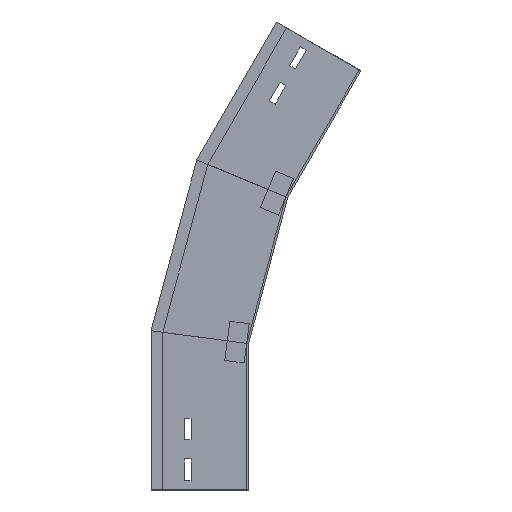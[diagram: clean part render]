
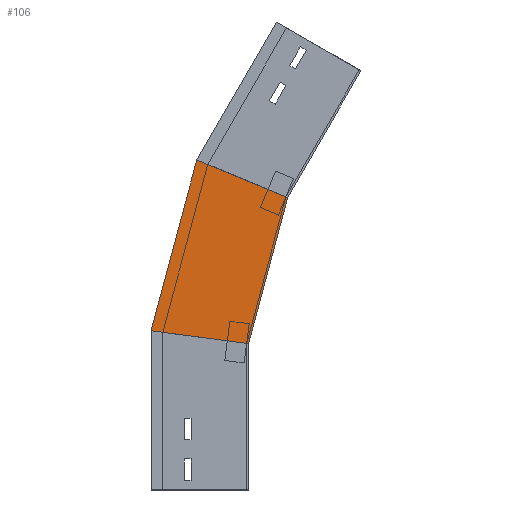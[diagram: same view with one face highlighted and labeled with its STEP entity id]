
A CAD part, left-side view. The second image highlights one B-rep face of the part: STEP entity #106.
In plain terms, the highlighted planar face has unit normal (-1, 0, 0) as drawn and (1, 0, 0) by its records, which use the part's own axes.
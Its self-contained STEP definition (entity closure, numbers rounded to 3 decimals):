
#42 = AXIS2_PLACEMENT_3D ( 'NONE', #234, #929, #126 ) ;
#106 = ADVANCED_FACE ( 'NONE', ( #550 ), #1167, .T. ) ;
#126 = DIRECTION ( 'NONE',  ( 0., 0., -1. ) ) ;
#149 = DIRECTION ( 'NONE',  ( 0., -0.259, 0.966 ) ) ;
#234 = CARTESIAN_POINT ( 'NONE',  ( 0., 3.774, 135.915 ) ) ;
#270 = CARTESIAN_POINT ( 'NONE',  ( 0., 100.367, 161.797 ) ) ;
#298 = CARTESIAN_POINT ( 'NONE',  ( 0., -40.117, 299.719 ) ) ;
#351 = VERTEX_POINT ( 'NONE', #799 ) ;
#383 = ORIENTED_EDGE ( 'NONE', *, *, #776, .T. ) ;
#403 = ORIENTED_EDGE ( 'NONE', *, *, #1404, .F. ) ;
#420 = LINE ( 'NONE', #1317, #641 ) ;
#442 = DIRECTION ( 'NONE',  ( 0., -0.924, -0.383 ) ) ;
#454 = VECTOR ( 'NONE', #1100, 1000. ) ;
#550 = FACE_OUTER_BOUND ( 'NONE', #582, .T. ) ;
#582 = EDGE_LOOP ( 'NONE', ( #1173, #383, #403, #654 ) ) ;
#627 = LINE ( 'NONE', #1449, #454 ) ;
#639 = VECTOR ( 'NONE', #442, 1000. ) ;
#641 = VECTOR ( 'NONE', #1216, 1000. ) ;
#654 = ORIENTED_EDGE ( 'NONE', *, *, #994, .F. ) ;
#708 = CARTESIAN_POINT ( 'NONE',  ( 0., 100., 163.165 ) ) ;
#776 = EDGE_CURVE ( 'NONE', #1309, #1407, #1020, .T. ) ;
#799 = CARTESIAN_POINT ( 'NONE',  ( 0., 0., 150. ) ) ;
#929 = DIRECTION ( 'NONE',  ( 1., 0., 0. ) ) ;
#937 = EDGE_CURVE ( 'NONE', #1102, #1309, #1297, .T. ) ;
#994 = EDGE_CURVE ( 'NONE', #1102, #351, #627, .T. ) ;
#1020 = LINE ( 'NONE', #1481, #639 ) ;
#1100 = DIRECTION ( 'NONE',  ( 0., -0.991, -0.131 ) ) ;
#1102 = VERTEX_POINT ( 'NONE', #708 ) ;
#1157 = CARTESIAN_POINT ( 'NONE',  ( 0., 53.068, 338.317 ) ) ;
#1167 = PLANE ( 'NONE',  #42 ) ;
#1173 = ORIENTED_EDGE ( 'NONE', *, *, #937, .T. ) ;
#1204 = VECTOR ( 'NONE', #149, 1000. ) ;
#1216 = DIRECTION ( 'NONE',  ( 0., -0.259, 0.966 ) ) ;
#1297 = LINE ( 'NONE', #270, #1204 ) ;
#1309 = VERTEX_POINT ( 'NONE', #1157 ) ;
#1317 = CARTESIAN_POINT ( 'NONE',  ( 0., 3.774, 135.915 ) ) ;
#1404 = EDGE_CURVE ( 'NONE', #351, #1407, #420, .T. ) ;
#1407 = VERTEX_POINT ( 'NONE', #298 ) ;
#1449 = CARTESIAN_POINT ( 'NONE',  ( 0., -19.411, 147.444 ) ) ;
#1481 = CARTESIAN_POINT ( 'NONE',  ( 0., -60.567, 291.248 ) ) ;
